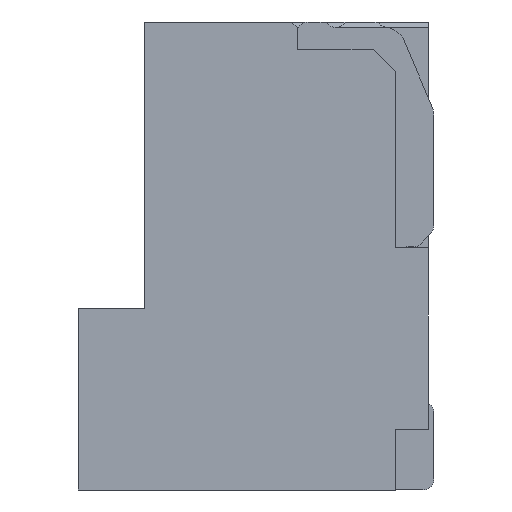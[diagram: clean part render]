
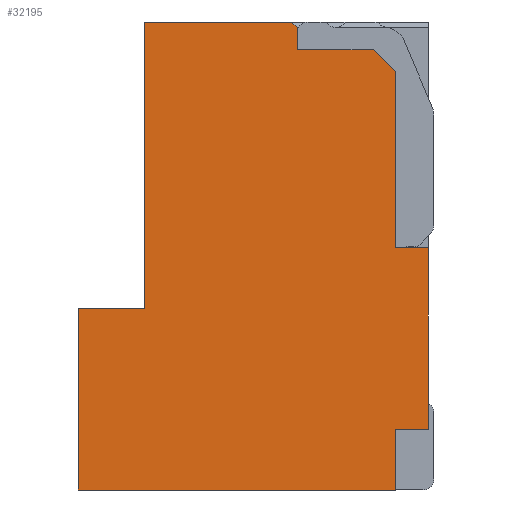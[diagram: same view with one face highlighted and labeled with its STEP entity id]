
A CAD part, left-side view. The second image highlights one B-rep face of the part: STEP entity #32195.
In plain terms, the highlighted planar face has unit normal (-1, 0, 0).
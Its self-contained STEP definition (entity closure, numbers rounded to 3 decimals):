
#207=DIRECTION('',(0.,0.,-1.));
#208=VECTOR('',#207,2.6);
#209=CARTESIAN_POINT('',(-15.55,2.63,0.));
#210=LINE('',#209,#208);
#9267=DIRECTION('',(0.,-0.707,-0.707));
#9268=VECTOR('',#9267,0.283);
#9269=CARTESIAN_POINT('',(-15.55,0.55,-0.25));
#9270=LINE('',#9269,#9268);
#9271=DIRECTION('',(0.,0.,-1.));
#9272=VECTOR('',#9271,1.65);
#9273=CARTESIAN_POINT('',(-15.55,0.05,-2.05));
#9274=LINE('',#9273,#9272);
#9275=DIRECTION('',(0.,1.,0.));
#9276=VECTOR('',#9275,0.3);
#9277=CARTESIAN_POINT('',(-15.55,0.05,-3.7));
#9278=LINE('',#9277,#9276);
#9279=DIRECTION('',(0.,0.,-1.));
#9280=VECTOR('',#9279,0.55);
#9281=CARTESIAN_POINT('',(-15.55,0.35,-3.7));
#9282=LINE('',#9281,#9280);
#9283=DIRECTION('',(0.,-1.,0.));
#9284=VECTOR('',#9283,1.34);
#9285=CARTESIAN_POINT('',(-15.55,2.63,0.));
#9286=LINE('',#9285,#9284);
#9287=DIRECTION('',(0.,-0.707,-0.707));
#9288=VECTOR('',#9287,0.071);
#9289=CARTESIAN_POINT('',(-15.55,1.29,0.));
#9290=LINE('',#9289,#9288);
#9319=DIRECTION('',(0.,0.,1.));
#9320=VECTOR('',#9319,0.2);
#9321=CARTESIAN_POINT('',(-15.55,1.24,-0.25));
#9322=LINE('',#9321,#9320);
#9347=DIRECTION('',(0.,1.,0.));
#9348=VECTOR('',#9347,0.69);
#9349=CARTESIAN_POINT('',(-15.55,0.55,-0.25));
#9350=LINE('',#9349,#9348);
#9403=DIRECTION('',(0.,1.,0.));
#9404=VECTOR('',#9403,0.3);
#9405=CARTESIAN_POINT('',(-15.55,0.05,-2.05));
#9406=LINE('',#9405,#9404);
#10042=DIRECTION('',(0.,0.,1.));
#10043=VECTOR('',#10042,1.6);
#10044=CARTESIAN_POINT('',(-15.55,0.35,-2.05));
#10045=LINE('',#10044,#10043);
#10054=DIRECTION('',(0.,-1.,0.));
#10055=VECTOR('',#10054,2.88);
#10056=CARTESIAN_POINT('',(-15.55,3.23,-4.25));
#10057=LINE('',#10056,#10055);
#10086=DIRECTION('',(0.,1.,0.));
#10087=VECTOR('',#10086,0.6);
#10088=CARTESIAN_POINT('',(-15.55,2.63,-2.6));
#10089=LINE('',#10088,#10087);
#10098=DIRECTION('',(0.,0.,-1.));
#10099=VECTOR('',#10098,1.65);
#10100=CARTESIAN_POINT('',(-15.55,3.23,-2.6));
#10101=LINE('',#10100,#10099);
#15673=CARTESIAN_POINT('',(-15.55,2.63,0.));
#15674=VERTEX_POINT('',#15673);
#15675=CARTESIAN_POINT('',(-15.55,2.63,-2.6));
#15676=VERTEX_POINT('',#15675);
#15685=CARTESIAN_POINT('',(-15.55,1.29,0.));
#15686=VERTEX_POINT('',#15685);
#15885=CARTESIAN_POINT('',(-15.55,0.05,-3.7));
#15886=VERTEX_POINT('',#15885);
#15887=CARTESIAN_POINT('',(-15.55,0.05,-2.05));
#15888=VERTEX_POINT('',#15887);
#16098=CARTESIAN_POINT('',(-15.55,0.35,-3.7));
#16100=VERTEX_POINT('',#16098);
#16105=CARTESIAN_POINT('',(-15.55,0.35,-4.25));
#16106=VERTEX_POINT('',#16105);
#19755=CARTESIAN_POINT('',(-15.55,0.55,-0.25));
#19756=CARTESIAN_POINT('',(-15.55,0.35,-0.45));
#19757=VERTEX_POINT('',#19755);
#19758=VERTEX_POINT('',#19756);
#19759=CARTESIAN_POINT('',(-15.55,0.35,-2.05));
#19760=VERTEX_POINT('',#19759);
#19761=CARTESIAN_POINT('',(-15.55,3.23,-4.25));
#19762=VERTEX_POINT('',#19761);
#19763=CARTESIAN_POINT('',(-15.55,3.23,-2.6));
#19764=VERTEX_POINT('',#19763);
#19765=CARTESIAN_POINT('',(-15.55,1.24,-0.05));
#19766=VERTEX_POINT('',#19765);
#19767=CARTESIAN_POINT('',(-15.55,1.24,-0.25));
#19768=VERTEX_POINT('',#19767);
#32165=CARTESIAN_POINT('',(-15.55,1.64,-2.125));
#32166=DIRECTION('',(1.,0.,0.));
#32167=DIRECTION('',(0.,-1.,0.));
#32168=AXIS2_PLACEMENT_3D('',#32165,#32166,#32167);
#32169=PLANE('',#32168);
#32171=ORIENTED_EDGE('',*,*,#32170,.T.);
#32173=ORIENTED_EDGE('',*,*,#32172,.F.);
#32175=ORIENTED_EDGE('',*,*,#32174,.F.);
#32176=ORIENTED_EDGE('',*,*,#20667,.T.);
#32177=ORIENTED_EDGE('',*,*,#25852,.T.);
#32178=ORIENTED_EDGE('',*,*,#25839,.T.);
#32180=ORIENTED_EDGE('',*,*,#32179,.F.);
#32182=ORIENTED_EDGE('',*,*,#32181,.F.);
#32184=ORIENTED_EDGE('',*,*,#32183,.F.);
#32185=ORIENTED_EDGE('',*,*,#20410,.F.);
#32186=ORIENTED_EDGE('',*,*,#20433,.T.);
#32188=ORIENTED_EDGE('',*,*,#32187,.T.);
#32190=ORIENTED_EDGE('',*,*,#32189,.F.);
#32192=ORIENTED_EDGE('',*,*,#32191,.F.);
#32193=EDGE_LOOP('',(#32171,#32173,#32175,#32176,#32177,#32178,#32180,#32182,
#32184,#32185,#32186,#32188,#32190,#32192));
#32194=FACE_OUTER_BOUND('',#32193,.F.);
#20410=EDGE_CURVE('',#15674,#15676,#210,.T.);
#20433=EDGE_CURVE('',#15674,#15686,#9286,.T.);
#20667=EDGE_CURVE('',#15888,#15886,#9274,.T.);
#25839=EDGE_CURVE('',#16100,#16106,#9282,.T.);
#25852=EDGE_CURVE('',#15886,#16100,#9278,.T.);
#32170=EDGE_CURVE('',#19757,#19758,#9270,.T.);
#32172=EDGE_CURVE('',#19760,#19758,#10045,.T.);
#32174=EDGE_CURVE('',#15888,#19760,#9406,.T.);
#32179=EDGE_CURVE('',#19762,#16106,#10057,.T.);
#32181=EDGE_CURVE('',#19764,#19762,#10101,.T.);
#32183=EDGE_CURVE('',#15676,#19764,#10089,.T.);
#32187=EDGE_CURVE('',#15686,#19766,#9290,.T.);
#32189=EDGE_CURVE('',#19768,#19766,#9322,.T.);
#32191=EDGE_CURVE('',#19757,#19768,#9350,.T.);
#32195=ADVANCED_FACE('',(#32194),#32169,.F.);
